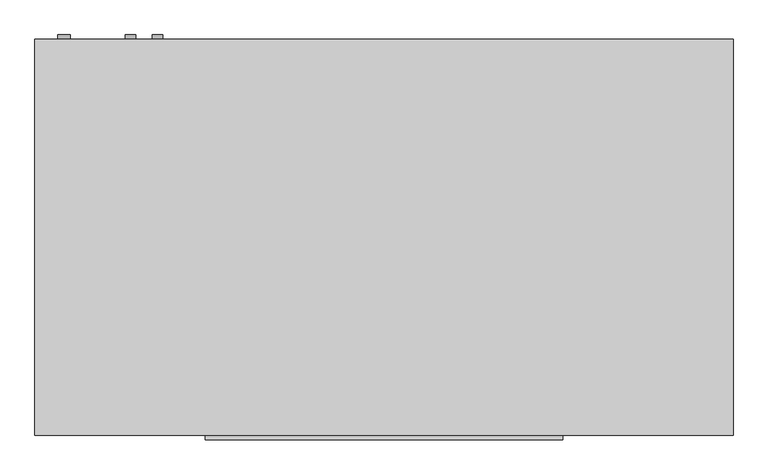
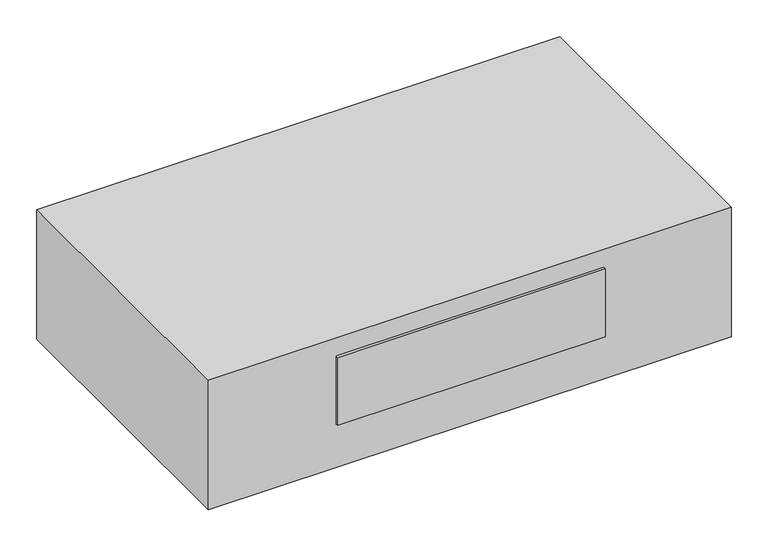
"""IFC4 building model written with IfcOpenShell, lengths in millimetres: proxy geometry, Exposed_Horizontal_Fan_Coil_Unit_-_42CGB_-_CARRIER_-_2-Pipe_Cool-EHeat_FS-BR_LH_2022 : Size 03 - 277v/60Hz/1Ph - 4 Row 3.0kW."""

from ifc_helpers import new_model, si_unit, point, frame, frame_2d, origin, place, context, project, spatial, polyline, circle_curve, trimmed, segment, composite_curve, outline, extrude, source, transform, mapped, element, save


def mechanical_equipment_a5131ff5(model_context):
    return source(origin(), model_context, "Body", "SweptSolid", [
        extrude(outline(composite_curve([segment(trimmed(circle_curve(frame_2d((-60.325, -193.675)), 7.9375), [point((-60.325, -185.7375))], [point((-60.325, -201.6125))], False, "CARTESIAN"), True, "CONTINUOUS"), segment(trimmed(circle_curve(frame_2d((-60.325, -193.675)), 7.9375), [point((-60.325, -201.6125))], [point((-60.325, -185.7375))], False, "CARTESIAN"), True, "CONTINUOUS")], self_intersect=False)), frame((0.0, 65.0875, 0.0), z_axis=(0.0, 1.0, 0.0), x_axis=(0.0, 0.0, 1.0)), (0.0, 0.0, 1.0), 6.35),
        extrude(outline(composite_curve([segment(trimmed(circle_curve(frame_2d((-95.25, -234.95)), 7.9375), [point((-95.25, -227.0125))], [point((-95.25, -242.8875))], False, "CARTESIAN"), True, "CONTINUOUS"), segment(trimmed(circle_curve(frame_2d((-95.25, -234.95)), 7.9375), [point((-95.25, -242.8875))], [point((-95.25, -227.0125))], False, "CARTESIAN"), True, "CONTINUOUS")], self_intersect=False)), frame((0.0, 65.0875, 0.0), z_axis=(0.0, 1.0, 0.0), x_axis=(0.0, 0.0, 1.0)), (0.0, 0.0, 1.0), 6.35),
        extrude(outline(composite_curve([segment(trimmed(circle_curve(frame_2d((-260.35, -336.55)), 9.525), [point((-260.35, -327.025))], [point((-260.35, -346.075))], False, "CARTESIAN"), True, "CONTINUOUS"), segment(trimmed(circle_curve(frame_2d((-260.35, -336.55)), 9.525), [point((-260.35, -346.075))], [point((-260.35, -327.025))], False, "CARTESIAN"), True, "CONTINUOUS")], self_intersect=False)), frame((0.0, 65.0875, 0.0), z_axis=(0.0, 1.0, 0.0), x_axis=(0.0, 0.0, 1.0)), (0.0, 0.0, 1.0), 6.35),
        extrude(outline(polyline([(-381.0, 65.0875), (685.8, 65.0875), (685.8, -541.3375), (-381.0, -541.3375), (-381.0, 65.0875)])), frame((0.0, 0.0, -279.4), z_axis=(0.0, 0.0, 1.0), x_axis=(1.0, 0.0, 0.0)), (0.0, 0.0, 1.0), 279.4),
        extrude(outline(polyline([(425.45, -547.6875), (-120.65, -547.6875), (-120.65, -541.3375), (425.45, -541.3375), (425.45, -547.6875)])), frame((0.0, 0.0, -184.15), z_axis=(0.0, 0.0, 1.0), x_axis=(1.0, 0.0, 0.0)), (0.0, 0.0, 1.0), 146.05),
        extrude(outline(polyline([(508.0, -11.1125), (508.0, -265.1125), (-203.2, -265.1125), (-203.2, -11.1125), (508.0, -11.1125)])), frame((0.0, 0.0, -285.75), z_axis=(0.0, 0.0, 1.0), x_axis=(1.0, 0.0, 0.0)), (0.0, 0.0, 1.0), 6.35),
    ])


if __name__ == "__main__":
    model = new_model("IFC4")
    model_context = context("Model", 3, world=origin())
    ifc_project = project(units=[si_unit("LENGTHUNIT", "METRE", prefix="MILLI")], contexts=[model_context])
    site = spatial("IfcSite", under=ifc_project)
    building = spatial("IfcBuilding", under=site)
    placement = place(None, origin())
    mechanical_equipment_shape = mechanical_equipment_a5131ff5(model_context)
    element("IfcBuildingElementProxy", 1, Name="Exposed_Horizontal_Fan_Coil_Unit_-_42CGB_-_CARRIER_-_2-Pipe_Cool-EHeat_FS-BR_LH_2022 : Size 03 - 277v/60Hz/1Ph - 4 Row 3.0kW", ObjectType="Exposed_Horizontal_Fan_Coil_Unit_-_42CGB_-_CARRIER_-_2-Pipe_Cool-EHeat_FS-BR_LH_2022 : Size 03 - 277v/60Hz/1Ph - 4 Row 3.0kW", at=placement, inside=building, context=model_context, shape_type="MappedRepresentation", body=[
        mapped(mechanical_equipment_shape, transform((0.0, 0.0, 0.0), x_axis=(1.0, 0.0, 0.0), y_axis=(0.0, 1.0, 0.0), z_axis=(0.0, 0.0, 1.0))),
    ])
    save(model, "model.ifc")
